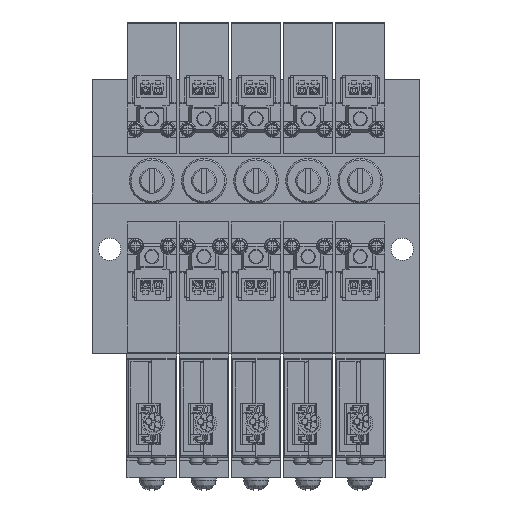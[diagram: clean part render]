
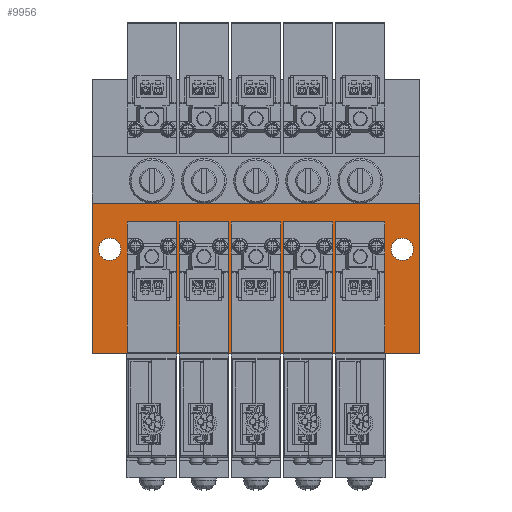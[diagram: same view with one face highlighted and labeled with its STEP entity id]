
A CAD part, top view. The second image highlights one B-rep face of the part: STEP entity #9956.
In plain terms, the highlighted planar face has unit normal (0, 0, 1).
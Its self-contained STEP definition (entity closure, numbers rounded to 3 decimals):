
#9956=ADVANCED_FACE('',(#16835,#16836,#16837),#16838,.F.);
#16835=FACE_BOUND('',#30787,.T.);
#16836=FACE_BOUND('',#30788,.T.);
#16837=FACE_OUTER_BOUND('',#30789,.T.);
#16838=PLANE('',#30790);
#30787=EDGE_LOOP('',(#46972));
#30788=EDGE_LOOP('',(#46973));
#30789=EDGE_LOOP('',(#46974,#46975,#46976,#46977));
#30790=AXIS2_PLACEMENT_3D('',#46978,#46979,#46980);
#46972=ORIENTED_EDGE('',*,*,#101340,.F.);
#46973=ORIENTED_EDGE('',*,*,#101341,.F.);
#46974=ORIENTED_EDGE('',*,*,#101342,.F.);
#46975=ORIENTED_EDGE('',*,*,#101343,.F.);
#46976=ORIENTED_EDGE('',*,*,#101344,.T.);
#46977=ORIENTED_EDGE('',*,*,#101338,.T.);
#46978=CARTESIAN_POINT('',(-66.0,30.3,14.8));
#46979=DIRECTION('',(0.0,0.0,-1.0));
#46980=DIRECTION('',(1.0,0.0,0.0));
#101338=EDGE_CURVE('',#118955,#118953,#118956,.T.);
#101340=EDGE_CURVE('',#118958,#118958,#118959,.T.);
#101341=EDGE_CURVE('',#118960,#118960,#118961,.T.);
#101342=EDGE_CURVE('',#118962,#118953,#118963,.T.);
#101343=EDGE_CURVE('',#118964,#118962,#118965,.T.);
#101344=EDGE_CURVE('',#118964,#118955,#118966,.T.);
#118953=VERTEX_POINT('',#148571);
#118955=VERTEX_POINT('',#148574);
#118956=LINE('',#148575,#148576);
#118958=VERTEX_POINT('',#148579);
#118959=CIRCLE('',#148580,2.25);
#118960=VERTEX_POINT('',#148581);
#118961=CIRCLE('',#148582,2.25);
#118962=VERTEX_POINT('',#148583);
#118963=LINE('',#148584,#148585);
#118964=VERTEX_POINT('',#148586);
#118965=LINE('',#148587,#148588);
#118966=LINE('',#148589,#148590);
#148571=CARTESIAN_POINT('',(0.0,0.,14.8));
#148574=CARTESIAN_POINT('',(-66.0,0.,14.8));
#148575=CARTESIAN_POINT('',(-66.0,0.,14.8));
#148576=VECTOR('',#194855,1.0);
#148579=CARTESIAN_POINT('',(-60.25,21.0,14.8));
#148580=AXIS2_PLACEMENT_3D('',#194857,#194858,#194859);
#148581=CARTESIAN_POINT('',(-1.25,21.0,14.8));
#148582=AXIS2_PLACEMENT_3D('',#194860,#194861,#194862);
#148583=CARTESIAN_POINT('',(0.0,30.3,14.8));
#148584=CARTESIAN_POINT('',(0.0,30.3,14.8));
#148585=VECTOR('',#194863,1.0);
#148586=CARTESIAN_POINT('',(-66.0,30.3,14.8));
#148587=CARTESIAN_POINT('',(-66.0,30.3,14.8));
#148588=VECTOR('',#194864,1.0);
#148589=CARTESIAN_POINT('',(-66.0,30.3,14.8));
#148590=VECTOR('',#194865,1.0);
#194855=DIRECTION('',(1.0,0.0,0.0));
#194857=CARTESIAN_POINT('',(-62.5,21.0,14.8));
#194858=DIRECTION('',(0.0,0.0,1.0));
#194859=DIRECTION('',(1.0,0.0,0.0));
#194860=CARTESIAN_POINT('',(-3.5,21.0,14.8));
#194861=DIRECTION('',(0.0,0.0,1.0));
#194862=DIRECTION('',(1.0,0.0,0.0));
#194863=DIRECTION('',(0.0,-1.0,0.0));
#194864=DIRECTION('',(1.0,0.0,0.0));
#194865=DIRECTION('',(0.0,-1.0,0.0));
